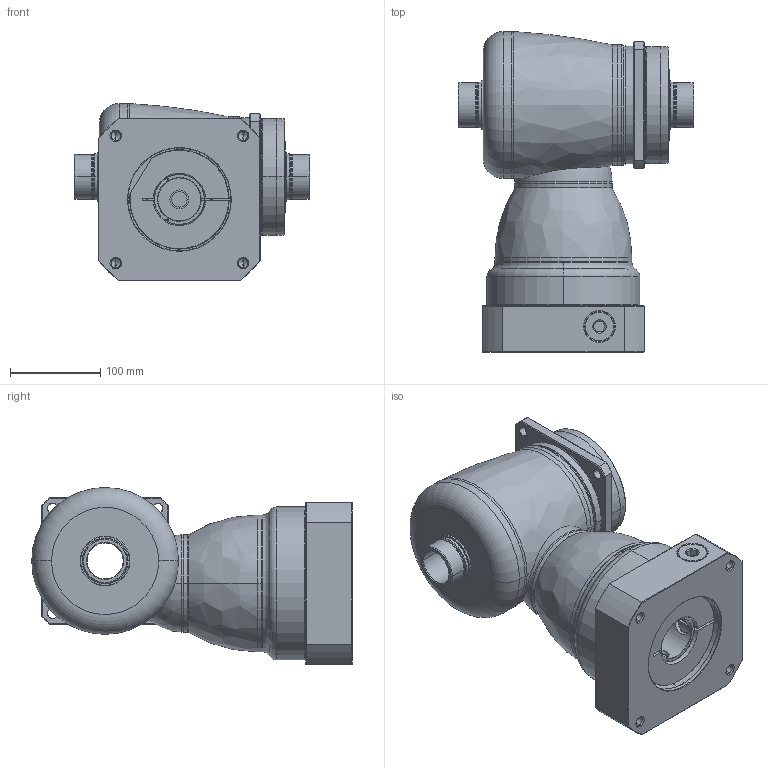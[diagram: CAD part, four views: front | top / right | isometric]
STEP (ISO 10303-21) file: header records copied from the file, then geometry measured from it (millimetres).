
FILE_DESCRIPTION((''),'2;1');
FILE_NAME('KF140_S4_1ST_48-P0409B00101_ASM','2016-07-21T',('d01943'),(''),'PRO/ENGINEER BY PARAMETRIC TECHNOLOGY CORPORATION, 2008410','PRO/ENGINEER BY PARAMETRIC TECHNOLOGY CORPORATION, 2008410','');
FILE_SCHEMA(('CONFIG_CONTROL_DESIGN'));
Length unit declared in the file: millimetre
Products named in the file (11): P1008500002; P1804500001; P0914500001; P1315500001; P1007500001; P1318500601; P0409B00101; P0503B00016; P0912506201; 21711426021; KF140_S4_1ST_48-P0409B00101_ASM
Assembly tree (10 placements, depth 2):
  KF140_S4_1ST_48-P0409B00101_ASM
    P1008500002
    P1804500001
    P0914500001
    P1315500001
    P1007500001
    P1318500601
    P0409B00101
    P0503B00016
    P0912506201
    21711426021
Bounding box: 262 x 356 x 196.5 mm (x, y, z)
Volume: 5883492.4 mm3; surface area: 702853.6 mm2
Topology: 11 solids, 11 shells, 491 faces, 1084 edges, 638 vertices
Faces by surface type: cylinder 168, cone 134, plane 100, torus 66, bspline 21, sphere 2
Entity records: 18675 total; most frequent: CARTESIAN_POINT 7549, DIRECTION 2483, ORIENTED_EDGE 2132, EDGE_CURVE 1066, AXIS2_PLACEMENT_3D 1053, VERTEX_POINT 638, EDGE_LOOP 562, CIRCLE 562
